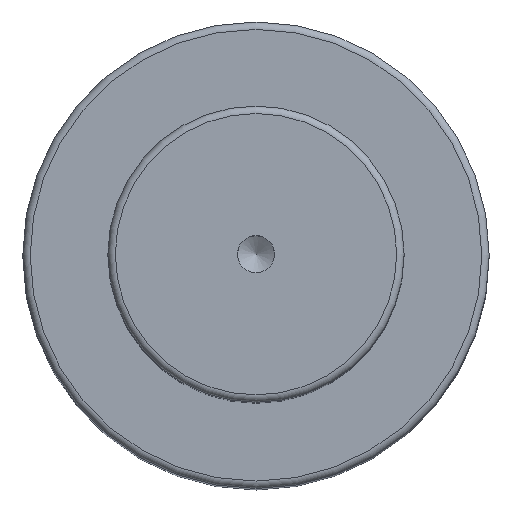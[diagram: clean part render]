
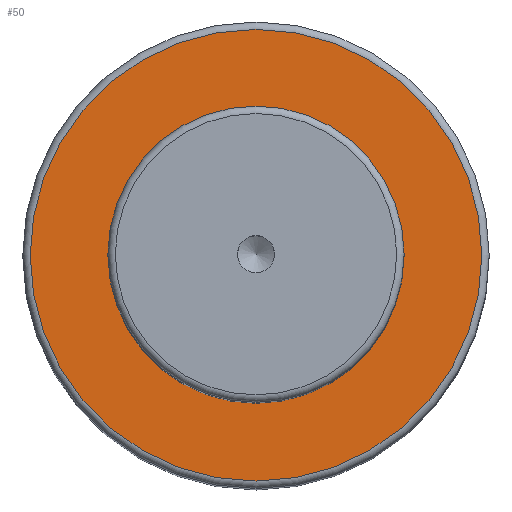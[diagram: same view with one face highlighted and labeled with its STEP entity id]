
A CAD part, top view. The second image highlights one B-rep face of the part: STEP entity #50.
In plain terms, the highlighted planar face has unit normal (0, 0, 1).
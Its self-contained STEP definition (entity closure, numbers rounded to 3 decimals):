
#40=PLANE('',#179);
#50=ADVANCED_FACE('',(#72,#73),#40,.F.);
#72=FACE_BOUND('',#96,.T.);
#73=FACE_BOUND('',#97,.T.);
#96=EDGE_LOOP('',(#118));
#97=EDGE_LOOP('',(#119));
#118=ORIENTED_EDGE('',*,*,#149,.F.);
#119=ORIENTED_EDGE('',*,*,#148,.T.);
#135=VERTEX_POINT('',#256);
#136=VERTEX_POINT('',#259);
#148=EDGE_CURVE('',#135,#135,#159,.T.);
#149=EDGE_CURVE('',#136,#136,#160,.T.);
#159=CIRCLE('',#176,20.);
#160=CIRCLE('',#178,30.5);
#176=AXIS2_PLACEMENT_3D('',#255,#213,#214);
#178=AXIS2_PLACEMENT_3D('',#258,#217,#218);
#179=AXIS2_PLACEMENT_3D('',#260,#219,#220);
#213=DIRECTION('',(0.,0.,-1.));
#214=DIRECTION('',(-1.,0.,0.));
#217=DIRECTION('',(0.,0.,-1.));
#218=DIRECTION('',(-1.,0.,0.));
#219=DIRECTION('',(0.,0.,-1.));
#220=DIRECTION('',(-1.,0.,0.));
#255=CARTESIAN_POINT('',(0.,0.,119.));
#256=CARTESIAN_POINT('',(-20.,0.,119.));
#258=CARTESIAN_POINT('',(0.,0.,119.));
#259=CARTESIAN_POINT('',(-30.5,0.,119.));
#260=CARTESIAN_POINT('',(20.,0.,119.));
